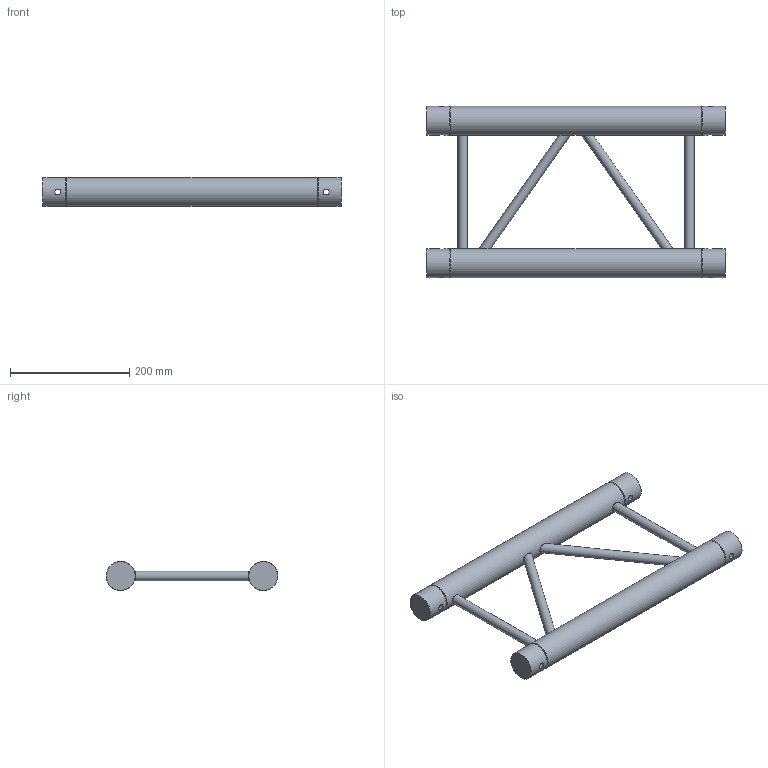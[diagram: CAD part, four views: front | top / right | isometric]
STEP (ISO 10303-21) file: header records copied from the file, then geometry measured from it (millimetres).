
FILE_DESCRIPTION(/* description */ (''),/* implementation_level */ '2;1');
FILE_NAME(/* name */ 'C:\Users\stephan\Desktop\Nieuwe map\H30L\111050039.stp',/* time_stamp */ '2016-09-12T11:45:47+02:00',/* author */ ('Stephan'),/* organization */ (''),/* preprocessor_version */ 'ST-DEVELOPER v15.6',/* originating_system */ 'Autodesk Inventor 2015',/* authorisation */ '');
FILE_SCHEMA (('AUTOMOTIVE_DESIGN { 1 0 10303 214 3 1 1 }'));
Length unit declared in the file: millimetre
Products named in the file (1): 160026969
Bounding box: 500 x 287.3 x 48.3 mm (x, y, z)
Volume: 857967.1 mm3; surface area: 332635.1 mm2
Topology: 6 solids, 8 shells, 52 faces, 90 edges, 58 vertices
Faces by surface type: plane 28, cylinder 20, cone 4
Full cylindrical faces by diameter (mm): 10 x4, 16 x4, 41.8 x4, 42.3 x2, 48.3 x6
Entity records: 1496 total; most frequent: CARTESIAN_POINT 449, DIRECTION 190, ORIENTED_EDGE 128, EDGE_LOOP 96, AXIS2_PLACEMENT_3D 93, EDGE_CURVE 60, VERTEX_POINT 56, STYLED_ITEM 55
